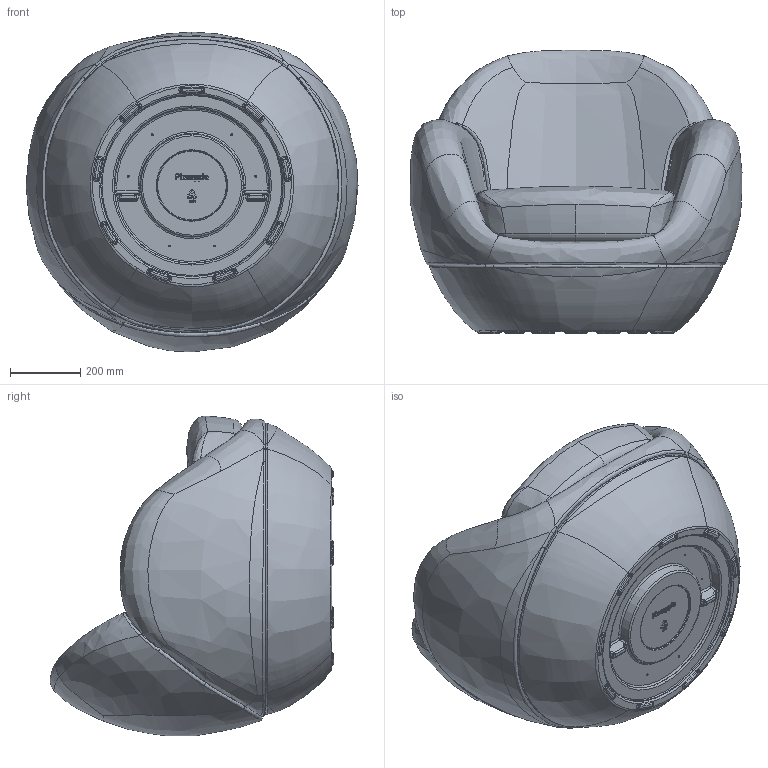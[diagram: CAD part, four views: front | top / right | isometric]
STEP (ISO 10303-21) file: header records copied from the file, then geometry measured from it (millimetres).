
FILE_DESCRIPTION (( 'STEP AP214' ), '1' );
FILE_NAME ('1001-T1-RevE - Mollu Chair Free Standing Full Assem.STEP', '2026-04-29T13:59:18', ( '' ), ( '' ), 'SwSTEP 2.0', 'SolidWorks 2026', '' );
FILE_SCHEMA (( 'AUTOMOTIVE_DESIGN' ));
Length unit declared in the file: millimetre
Products named in the file (1): 1001-T1-RevE - Mollu Chair Free Standing Full Assem
Bounding box: 945.69 x 807.01 x 910.89 mm (x, y, z)
Volume: 269886314 mm3; surface area: 7964185.7 mm2
Topology: 75 solids, 75 shells, 3441 faces, 8665 edges, 5390 vertices
Faces by surface type: plane 1036, cylinder 974, bspline 762, cone 379, torus 274, sphere 16
Entity records: 205050 total; most frequent: CARTESIAN_POINT 126696, ORIENTED_EDGE 17158, DIRECTION 14797, EDGE_CURVE 8579, AXIS2_PLACEMENT_3D 5707, VERTEX_POINT 5390, EDGE_LOOP 3755, FACE_OUTER_BOUND 3441
